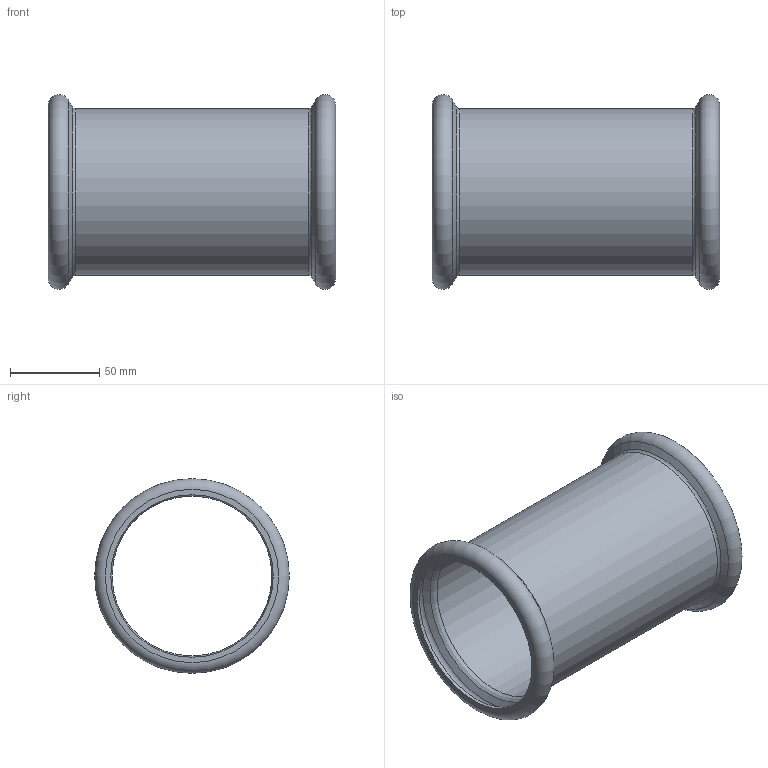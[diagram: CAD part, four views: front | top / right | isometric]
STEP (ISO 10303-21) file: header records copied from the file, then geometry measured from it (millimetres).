
FILE_DESCRIPTION((''),'2;1');
FILE_NAME('G:\Technics\CAD\Bauteile\089\69270S89(0).stp','2008-03-14T11:31:43',('herberg'),(''),'Autodesk Inventor 2008','Autodesk Inventor 2008','');
FILE_SCHEMA(('AUTOMOTIVE_DESIGN { 1 0 10303 214 1 1 1 1 }'));
Length unit declared in the file: millimetre
Products named in the file (1): 69270S89(0)
Bounding box: 161 x 109.1 x 109.1 mm (x, y, z)
Volume: 105009.1 mm3; surface area: 106163.7 mm2
Topology: 1 solids, 1 shells, 20 faces, 36 edges, 20 vertices
Faces by surface type: plane 4, torus 4, cone 4, bspline 4, cylinder 4
Full cylindrical faces by diameter (mm): 89.5 x1, 91 x2, 93.5 x1
Entity records: 594 total; most frequent: CARTESIAN_POINT 237, DIRECTION 74, ORIENTED_EDGE 40, EDGE_LOOP 40, AXIS2_PLACEMENT_3D 37, VERTEX_POINT 20, CIRCLE 20, EDGE_CURVE 20
